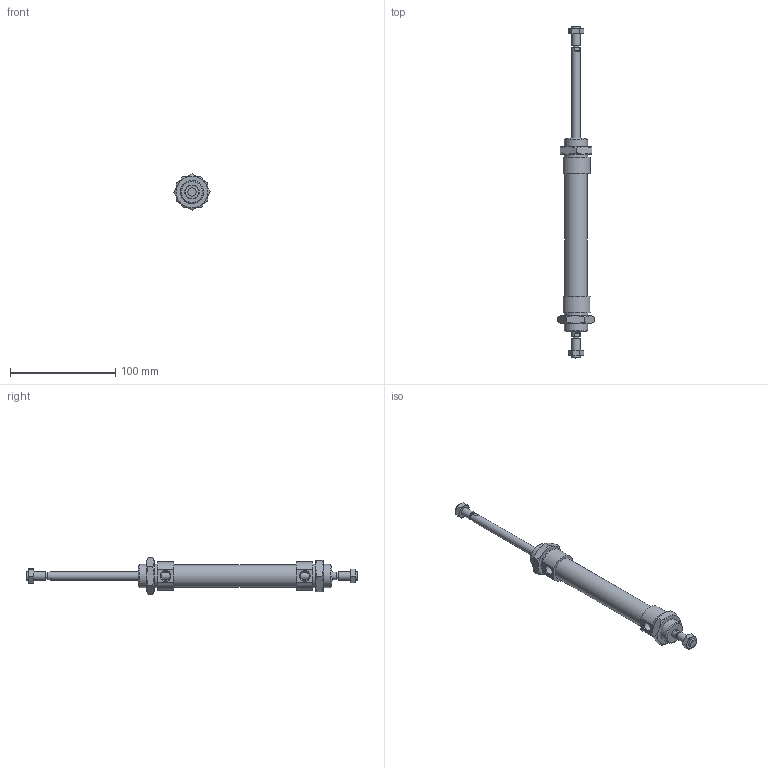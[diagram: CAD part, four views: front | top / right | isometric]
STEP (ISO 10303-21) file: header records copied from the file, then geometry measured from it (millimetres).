
FILE_DESCRIPTION((''),'2;1');
FILE_NAME('I:\Area Tecnica\Disegni\VARIE-3D\Componenti\1280\1282_##_####_#\1282_20_0080.iam.stp','2009-06-03T15:25:17',(''),(''),'Autodesk Inventor 2010','Autodesk Inventor 2010','');
FILE_SCHEMA(('AUTOMOTIVE_DESIGN { 1 0 10303 214 1 1 1 1 }'));
Length unit declared in the file: millimetre
Products named in the file (5): 1282_20_0080; C1282_20_80; S1282_20_80; 1200_20_05; 1200_20_06
Assembly tree (6 placements, depth 2):
  1282_20_0080
    C1282_20_80
    S1282_20_80
    1200_20_05  x2
    1200_20_06  x2
Bounding box: 34.64 x 316 x 34.64 mm (x, y, z)
Volume: 84928.9 mm3; surface area: 32150.2 mm2
Topology: 6 solids, 6 shells, 141 faces, 309 edges, 184 vertices
Faces by surface type: plane 60, cone 52, bspline 18, cylinder 11
Full cylindrical faces by diameter (mm): 6.5 x2, 8 x4, 21.2 x1, 22 x2
Entity records: 2813 total; most frequent: CARTESIAN_POINT 727, DIRECTION 386, ORIENTED_EDGE 352, EDGE_CURVE 176, AXIS2_PLACEMENT_3D 169, EDGE_LOOP 132, VERTEX_POINT 116, STYLED_ITEM 99
